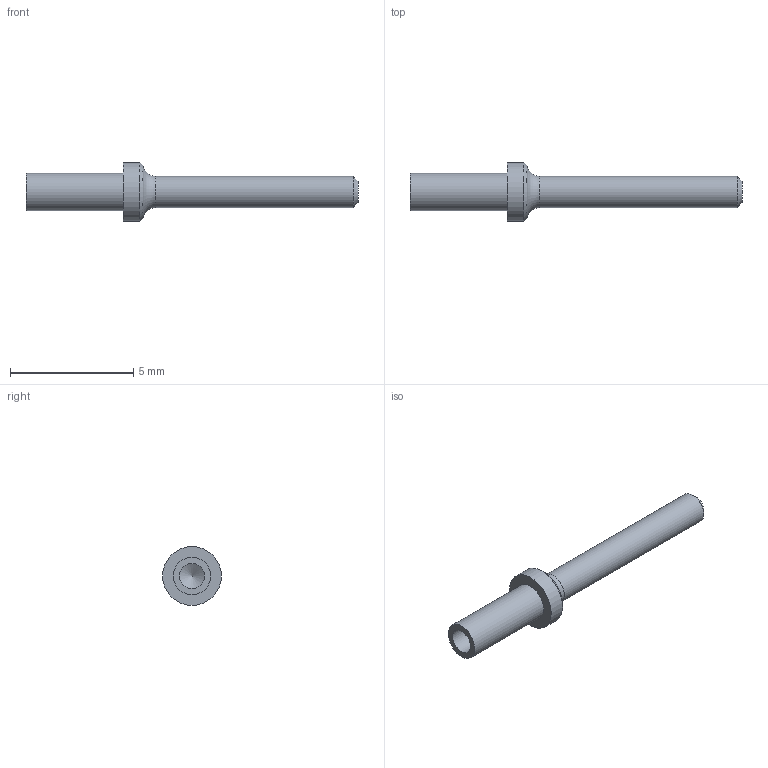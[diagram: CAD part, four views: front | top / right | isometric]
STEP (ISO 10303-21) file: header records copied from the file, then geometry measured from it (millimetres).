
FILE_DESCRIPTION(/* description */ (''),/* implementation_level */ '2;1');
FILE_NAME(/* name */ 'Z:\STEP folder\120-1134-04.ipt.stp',/* time_stamp */ '2016-12-07T10:27:19+00:00',/* author */ ('Paul Karlsons'),/* organization */ (''),/* preprocessor_version */ 'ST-DEVELOPER v15.2',/* originating_system */ 'Autodesk Inventor 2014',/* authorisation */ '');
FILE_SCHEMA (('AUTOMOTIVE_DESIGN { 1 0 10303 214 3 1 1 }'));
Length unit declared in the file: millimetre
Products named in the file (1): 120-1134-04
Bounding box: 13.48 x 2.39 x 2.39 mm (x, y, z)
Volume: 20.4 mm3; surface area: 72.7 mm2
Topology: 1 solids, 1 shells, 11 faces, 20 edges, 12 vertices
Faces by surface type: cylinder 4, cone 3, plane 3, torus 1
Full cylindrical faces by diameter (mm): 1.016 x1, 1.27 x1, 1.524 x1, 2.388 x1
Entity records: 235 total; most frequent: DIRECTION 44, CARTESIAN_POINT 32, AXIS2_PLACEMENT_3D 22, EDGE_LOOP 20, ORIENTED_EDGE 20, ADVANCED_FACE 11, FACE_BOUND 10, FACE_OUTER_BOUND 10
